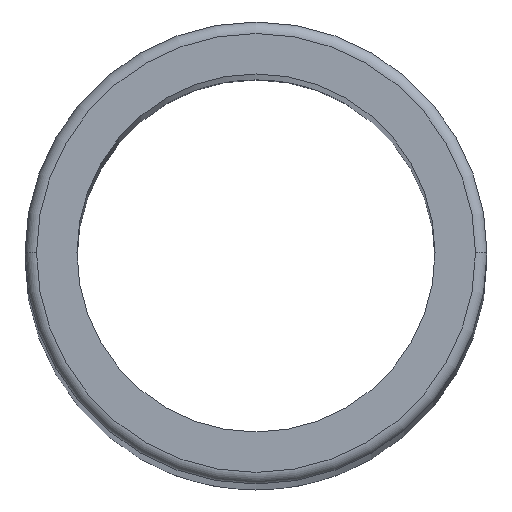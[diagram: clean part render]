
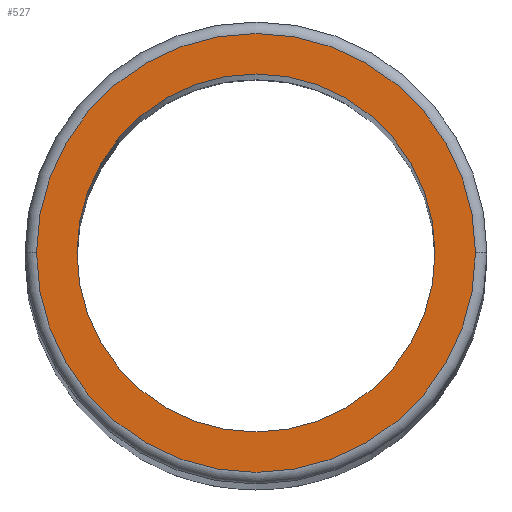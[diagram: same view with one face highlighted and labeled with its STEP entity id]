
A CAD part, top view. The second image highlights one B-rep face of the part: STEP entity #527.
In plain terms, the highlighted planar face has unit normal (0, 0, 1).
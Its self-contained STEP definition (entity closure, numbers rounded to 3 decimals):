
#12 = DIRECTION ( 'NONE',  ( 1., 0., 0. ) ) ;
#31 = ORIENTED_EDGE ( 'NONE', *, *, #724, .F. ) ;
#32 = VERTEX_POINT ( 'NONE', #443 ) ;
#78 = VERTEX_POINT ( 'NONE', #622 ) ;
#84 = ORIENTED_EDGE ( 'NONE', *, *, #304, .F. ) ;
#114 = CIRCLE ( 'NONE', #337, 7.75 ) ;
#152 = VERTEX_POINT ( 'NONE', #340 ) ;
#190 = AXIS2_PLACEMENT_3D ( 'NONE', #296, #578, #694 ) ;
#202 = DIRECTION ( 'NONE',  ( 0., 0., 1. ) ) ;
#204 = DIRECTION ( 'NONE',  ( 1., 0., 0. ) ) ;
#278 = ORIENTED_EDGE ( 'NONE', *, *, #321, .T. ) ;
#279 = CARTESIAN_POINT ( 'NONE',  ( 0., 0., 150. ) ) ;
#293 = CARTESIAN_POINT ( 'NONE',  ( 0., 0., 150. ) ) ;
#296 = CARTESIAN_POINT ( 'NONE',  ( 0., 0., 150. ) ) ;
#304 = EDGE_CURVE ( 'NONE', #152, #78, #732, .T. ) ;
#306 = DIRECTION ( 'NONE',  ( 0., 0., 1. ) ) ;
#321 = EDGE_CURVE ( 'NONE', #32, #400, #482, .T. ) ;
#329 = EDGE_LOOP ( 'NONE', ( #84, #31 ) ) ;
#335 = ORIENTED_EDGE ( 'NONE', *, *, #674, .T. ) ;
#337 = AXIS2_PLACEMENT_3D ( 'NONE', #279, #505, #451 ) ;
#340 = CARTESIAN_POINT ( 'NONE',  ( 7.75, 0., 150. ) ) ;
#349 = DIRECTION ( 'NONE',  ( 1., 0., 0. ) ) ;
#359 = CARTESIAN_POINT ( 'NONE',  ( 0., 0., 150. ) ) ;
#370 = CARTESIAN_POINT ( 'NONE',  ( -9.5, 0., 150. ) ) ;
#379 = FACE_BOUND ( 'NONE', #329, .T. ) ;
#400 = VERTEX_POINT ( 'NONE', #370 ) ;
#419 = EDGE_LOOP ( 'NONE', ( #278, #335 ) ) ;
#443 = CARTESIAN_POINT ( 'NONE',  ( 9.5, 0., 150. ) ) ;
#451 = DIRECTION ( 'NONE',  ( 1., 0., 0. ) ) ;
#459 = AXIS2_PLACEMENT_3D ( 'NONE', #359, #306, #12 ) ;
#482 = CIRCLE ( 'NONE', #550, 9.5 ) ;
#495 = FACE_OUTER_BOUND ( 'NONE', #419, .T. ) ;
#505 = DIRECTION ( 'NONE',  ( 0., 0., 1. ) ) ;
#527 = ADVANCED_FACE ( 'NONE', ( #379, #495 ), #643, .T. ) ;
#538 = CARTESIAN_POINT ( 'NONE',  ( 0., 0., 150. ) ) ;
#550 = AXIS2_PLACEMENT_3D ( 'NONE', #293, #687, #349 ) ;
#578 = DIRECTION ( 'NONE',  ( 0., 0., 1. ) ) ;
#586 = CIRCLE ( 'NONE', #190, 9.5 ) ;
#622 = CARTESIAN_POINT ( 'NONE',  ( -7.75, 0., 150. ) ) ;
#643 = PLANE ( 'NONE',  #459 ) ;
#674 = EDGE_CURVE ( 'NONE', #400, #32, #586, .T. ) ;
#687 = DIRECTION ( 'NONE',  ( 0., 0., 1. ) ) ;
#694 = DIRECTION ( 'NONE',  ( 1., 0., 0. ) ) ;
#722 = AXIS2_PLACEMENT_3D ( 'NONE', #538, #202, #204 ) ;
#724 = EDGE_CURVE ( 'NONE', #78, #152, #114, .T. ) ;
#732 = CIRCLE ( 'NONE', #722, 7.75 ) ;
